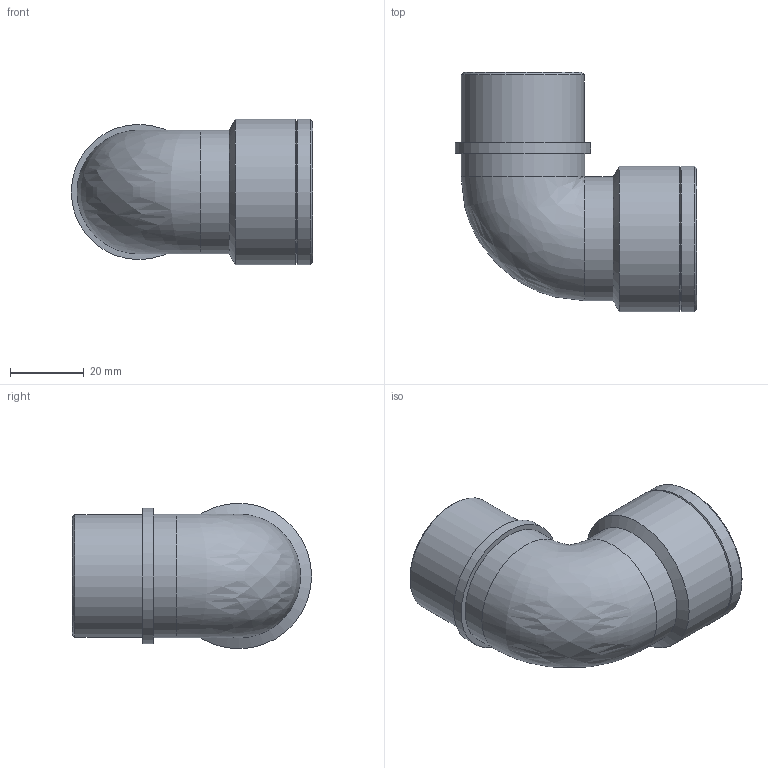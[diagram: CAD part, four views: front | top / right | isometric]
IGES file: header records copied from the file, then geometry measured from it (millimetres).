
Global section: file name: 051507010_0515070100A.ipt; native system: Autodesk Inventor 2015; preprocessor: unknown; author: KIM; date: 20180617.111941; units: millimetre
Bounding box: 65.29 x 64.69 x 39.38 mm (x, y, z)
Volume: 36522.2 mm3; surface area: 17899 mm2
Topology: 1 solids, 1 shells, 21 faces, 45 edges, 26 vertices
Faces by surface type: cylinder 6, revolution 5, cone 5, plane 4, bspline 1
Full cylindrical faces by diameter (mm): 33.249 x1, 33.472 x2, 36.574 x1, 39.378 x2
